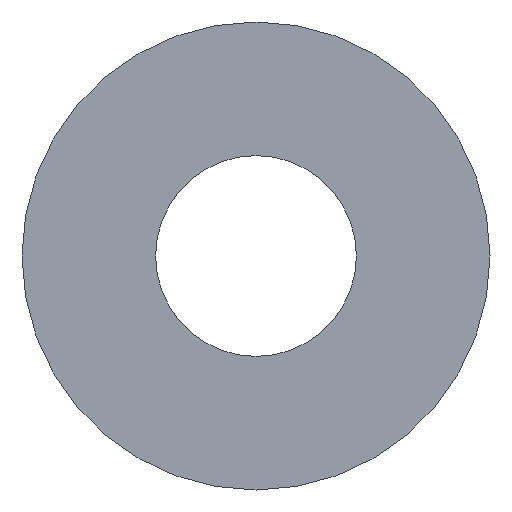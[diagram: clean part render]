
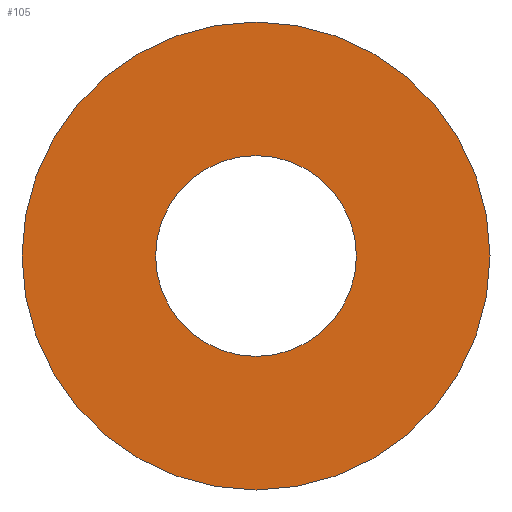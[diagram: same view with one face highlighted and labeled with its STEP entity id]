
A CAD part, left-side view. The second image highlights one B-rep face of the part: STEP entity #105.
In plain terms, the highlighted planar face has unit normal (-1, 0, 0).
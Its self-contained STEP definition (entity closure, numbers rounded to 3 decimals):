
#22 = VERTEX_POINT('',#23);
#23 = CARTESIAN_POINT('',(19.,12.,-44.));
#32 = CYLINDRICAL_SURFACE('',#33,12.);
#33 = AXIS2_PLACEMENT_3D('',#34,#35,#36);
#34 = CARTESIAN_POINT('',(19.,0.,-44.));
#35 = DIRECTION('',(-1.,-0.,-0.));
#36 = DIRECTION('',(0.,1.,0.));
#79 = EDGE_CURVE('',#22,#22,#80,.T.);
#80 = SURFACE_CURVE('',#81,(#86,#93),.PCURVE_S1.);
#81 = CIRCLE('',#82,12.);
#82 = AXIS2_PLACEMENT_3D('',#83,#84,#85);
#83 = CARTESIAN_POINT('',(19.,0.,-44.));
#84 = DIRECTION('',(1.,0.,0.));
#85 = DIRECTION('',(0.,1.,0.));
#86 = PCURVE('',#32,#87);
#87 = DEFINITIONAL_REPRESENTATION('',(#88),#92);
#88 = LINE('',#89,#90);
#89 = CARTESIAN_POINT('',(-0.,0.));
#90 = VECTOR('',#91,1.);
#91 = DIRECTION('',(-1.,0.));
#92 = ( GEOMETRIC_REPRESENTATION_CONTEXT(2) 
PARAMETRIC_REPRESENTATION_CONTEXT() REPRESENTATION_CONTEXT('2D SPACE',''
  ) );
#93 = PCURVE('',#94,#99);
#94 = PLANE('',#95);
#95 = AXIS2_PLACEMENT_3D('',#96,#97,#98);
#96 = CARTESIAN_POINT('',(19.,0.,-44.));
#97 = DIRECTION('',(1.,0.,0.));
#98 = DIRECTION('',(-0.,0.,1.));
#99 = DEFINITIONAL_REPRESENTATION('',(#100),#104);
#100 = CIRCLE('',#101,12.);
#101 = AXIS2_PLACEMENT_2D('',#102,#103);
#102 = CARTESIAN_POINT('',(0.,0.));
#103 = DIRECTION('',(0.,-1.));
#104 = ( GEOMETRIC_REPRESENTATION_CONTEXT(2) 
PARAMETRIC_REPRESENTATION_CONTEXT() REPRESENTATION_CONTEXT('2D SPACE',''
  ) );
#105 = ADVANCED_FACE('',(#106,#109),#94,.F.);
#106 = FACE_BOUND('',#107,.F.);
#107 = EDGE_LOOP('',(#108));
#108 = ORIENTED_EDGE('',*,*,#79,.T.);
#109 = FACE_BOUND('',#110,.F.);
#110 = EDGE_LOOP('',(#111));
#111 = ORIENTED_EDGE('',*,*,#112,.T.);
#112 = EDGE_CURVE('',#113,#113,#115,.T.);
#113 = VERTEX_POINT('',#114);
#114 = CARTESIAN_POINT('',(19.,5.15,-44.));
#115 = SURFACE_CURVE('',#116,(#121,#132),.PCURVE_S1.);
#116 = CIRCLE('',#117,5.15);
#117 = AXIS2_PLACEMENT_3D('',#118,#119,#120);
#118 = CARTESIAN_POINT('',(19.,0.,-44.));
#119 = DIRECTION('',(-1.,0.,0.));
#120 = DIRECTION('',(0.,1.,0.));
#121 = PCURVE('',#94,#122);
#122 = DEFINITIONAL_REPRESENTATION('',(#123),#131);
#123 = ( BOUNDED_CURVE() B_SPLINE_CURVE(2,(#124,#125,#126,#127,#128,#129
,#130),.UNSPECIFIED.,.T.,.F.) B_SPLINE_CURVE_WITH_KNOTS((1,2,2,2,2,1),(
    -2.094,0.,2.094,4.189,6.283,
8.378),.UNSPECIFIED.) CURVE() GEOMETRIC_REPRESENTATION_ITEM() 
RATIONAL_B_SPLINE_CURVE((1.,0.5,1.,0.5,1.,0.5,1.)) REPRESENTATION_ITEM(
  '') );
#124 = CARTESIAN_POINT('',(0.,-5.15));
#125 = CARTESIAN_POINT('',(-8.92,-5.15));
#126 = CARTESIAN_POINT('',(-4.46,2.575));
#127 = CARTESIAN_POINT('',(0.,10.3));
#128 = CARTESIAN_POINT('',(4.46,2.575));
#129 = CARTESIAN_POINT('',(8.92,-5.15));
#130 = CARTESIAN_POINT('',(0.,-5.15));
#131 = ( GEOMETRIC_REPRESENTATION_CONTEXT(2) 
PARAMETRIC_REPRESENTATION_CONTEXT() REPRESENTATION_CONTEXT('2D SPACE',''
  ) );
#132 = PCURVE('',#133,#138);
#133 = CYLINDRICAL_SURFACE('',#134,5.15);
#134 = AXIS2_PLACEMENT_3D('',#135,#136,#137);
#135 = CARTESIAN_POINT('',(18.,0.,-44.));
#136 = DIRECTION('',(-1.,-0.,-0.));
#137 = DIRECTION('',(0.,1.,0.));
#138 = DEFINITIONAL_REPRESENTATION('',(#139),#143);
#139 = LINE('',#140,#141);
#140 = CARTESIAN_POINT('',(-6.283,-1.));
#141 = VECTOR('',#142,1.);
#142 = DIRECTION('',(1.,-0.));
#143 = ( GEOMETRIC_REPRESENTATION_CONTEXT(2) 
PARAMETRIC_REPRESENTATION_CONTEXT() REPRESENTATION_CONTEXT('2D SPACE',''
  ) );
